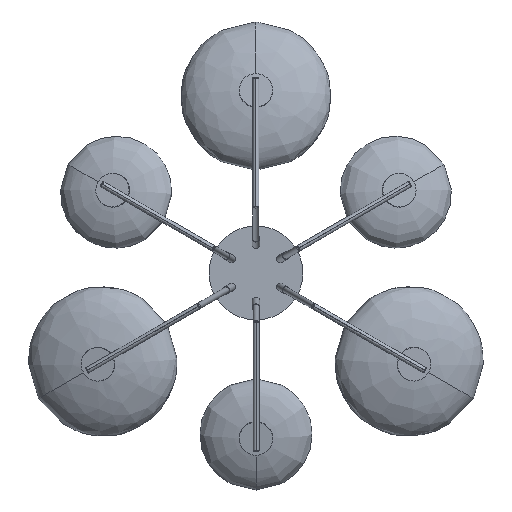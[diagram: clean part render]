
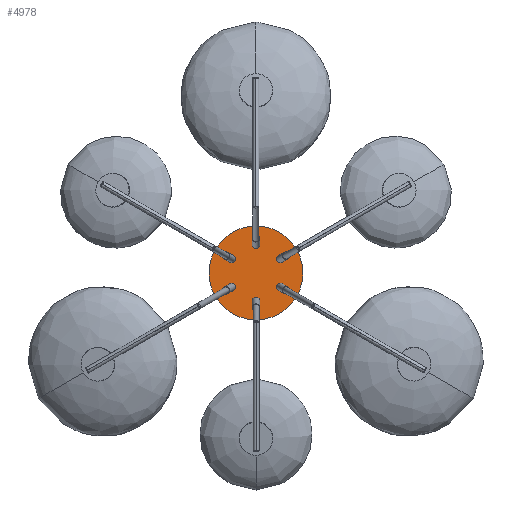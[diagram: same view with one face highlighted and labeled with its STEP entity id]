
A CAD part, front view. The second image highlights one B-rep face of the part: STEP entity #4978.
In plain terms, the highlighted planar face has unit normal (0, -1, 0).
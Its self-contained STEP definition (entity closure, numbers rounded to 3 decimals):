
#1257=FACE_OUTER_BOUND('',#1533,.T.);
#1533=EDGE_LOOP('',(#3414));
#1851=CIRCLE('',#5574,125.);
#2164=VERTEX_POINT('',#7875);
#2684=EDGE_CURVE('',#2164,#2164,#1851,.T.);
#3414=ORIENTED_EDGE('',*,*,#2684,.T.);
#4860=PLANE('',#5575);
#4978=ADVANCED_FACE('',(#1257),#4860,.F.);
#5574=AXIS2_PLACEMENT_3D('',#7876,#6259,#6260);
#5575=AXIS2_PLACEMENT_3D('',#7878,#6262,#6263);
#6259=DIRECTION('center_axis',(0.,-1.,0.));
#6260=DIRECTION('ref_axis',(-1.,0.,0.));
#6262=DIRECTION('center_axis',(0.,1.,0.));
#6263=DIRECTION('ref_axis',(0.,0.,1.));
#7875=CARTESIAN_POINT('',(125.,-40.,0.));
#7876=CARTESIAN_POINT('Origin',(0.,-40.,0.));
#7878=CARTESIAN_POINT('Origin',(0.,-40.,0.));
